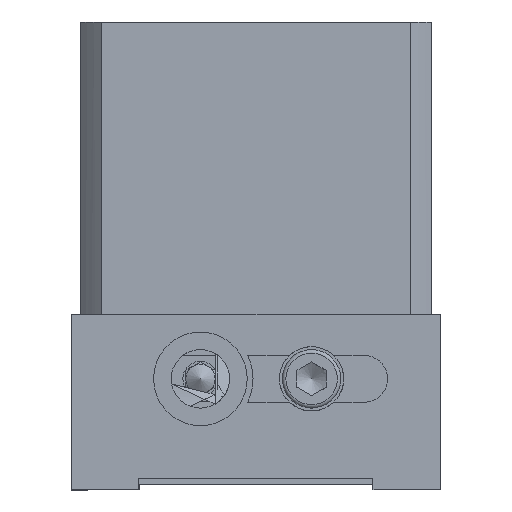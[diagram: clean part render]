
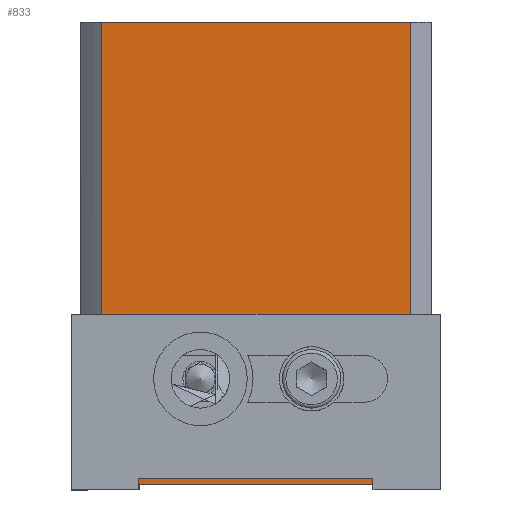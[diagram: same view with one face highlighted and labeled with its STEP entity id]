
A CAD part, left-side view. The second image highlights one B-rep face of the part: STEP entity #833.
In plain terms, the highlighted planar face has unit normal (-1, 0, 0).
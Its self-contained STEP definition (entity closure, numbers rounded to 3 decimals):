
#756=CARTESIAN_POINT('',(-30.,56.458,0.0));
#757=DIRECTION('',(-1.0,0.0,0.0));
#758=DIRECTION('',(0.0,0.0,1.0));
#759=AXIS2_PLACEMENT_3D('',#756,#757,#758);
#760=PLANE('',#759);
#761=CARTESIAN_POINT('',(-30.,3.542,0.0));
#762=VERTEX_POINT('',#761);
#763=CARTESIAN_POINT('',(-30.,3.542,-76.542));
#764=VERTEX_POINT('',#763);
#765=CARTESIAN_POINT('',(-30.,3.542,0.0));
#766=DIRECTION('',(0.0,0.0,-1.0));
#767=VECTOR('',#766,76.542);
#768=LINE('',#765,#767);
#769=EDGE_CURVE('',#762,#764,#768,.T.);
#770=ORIENTED_EDGE('',*,*,#769,.F.);
#771=CARTESIAN_POINT('',(-30.,56.458,0.0));
#772=VERTEX_POINT('',#771);
#773=CARTESIAN_POINT('',(-30.0,56.458,0.0));
#774=DIRECTION('',(0.0,-1.0,0.0));
#775=VECTOR('',#774,52.915);
#776=LINE('',#773,#775);
#777=EDGE_CURVE('',#772,#762,#776,.T.);
#778=ORIENTED_EDGE('',*,*,#777,.F.);
#779=CARTESIAN_POINT('',(-30.,56.458,-76.542));
#780=VERTEX_POINT('',#779);
#781=CARTESIAN_POINT('',(-30.,56.458,0.0));
#782=DIRECTION('',(0.0,0.0,-1.0));
#783=VECTOR('',#782,76.542);
#784=LINE('',#781,#783);
#785=EDGE_CURVE('',#772,#780,#784,.T.);
#786=ORIENTED_EDGE('',*,*,#785,.T.);
#787=CARTESIAN_POINT('',(-30.,54.,-79.));
#788=VERTEX_POINT('',#787);
#789=CARTESIAN_POINT('',(-30.,54.,-79.));
#790=DIRECTION('',(0.,0.707,0.707));
#791=VECTOR('',#790,3.475);
#792=LINE('',#789,#791);
#793=EDGE_CURVE('',#788,#780,#792,.T.);
#794=ORIENTED_EDGE('',*,*,#793,.F.);
#795=CARTESIAN_POINT('',(-30.,6.,-79.0));
#796=VERTEX_POINT('',#795);
#797=CARTESIAN_POINT('',(-30.,54.,-79.));
#798=DIRECTION('',(0.0,-1.0,0.0));
#799=VECTOR('',#798,48.0);
#800=LINE('',#797,#799);
#801=EDGE_CURVE('',#788,#796,#800,.T.);
#802=ORIENTED_EDGE('',*,*,#801,.T.);
#803=CARTESIAN_POINT('',(-30.,3.542,-76.542));
#804=DIRECTION('',(0.,0.707,-0.707));
#805=VECTOR('',#804,3.475);
#806=LINE('',#803,#805);
#807=EDGE_CURVE('',#764,#796,#806,.T.);
#808=ORIENTED_EDGE('',*,*,#807,.F.);
#809=EDGE_LOOP('',(#770,#778,#786,#794,#802,#808));
#810=FACE_OUTER_BOUND('',#809,.T.);
#811=CARTESIAN_POINT('',(-30.,47.5,-61.));
#812=VERTEX_POINT('',#811);
#813=CARTESIAN_POINT('',(-30.,39.5,-61.));
#814=DIRECTION('',(-1.0,0.0,0.0));
#815=DIRECTION('',(0.0,1.0,0.0));
#816=AXIS2_PLACEMENT_3D('',#813,#814,#815);
#817=CIRCLE('',#816,8.0);
#818=EDGE_CURVE('',#812,#812,#817,.T.);
#819=ORIENTED_EDGE('',*,*,#818,.F.);
#820=EDGE_LOOP('',(#819));
#821=FACE_BOUND('',#820,.T.);
#822=CARTESIAN_POINT('',(-30.,28.5,-61.));
#823=VERTEX_POINT('',#822);
#824=CARTESIAN_POINT('',(-30.,20.5,-61.));
#825=DIRECTION('',(-1.0,0.0,0.0));
#826=DIRECTION('',(0.0,-1.0,0.0));
#827=AXIS2_PLACEMENT_3D('',#824,#825,#826);
#828=CIRCLE('',#827,8.0);
#829=EDGE_CURVE('',#823,#823,#828,.T.);
#830=ORIENTED_EDGE('',*,*,#829,.F.);
#831=EDGE_LOOP('',(#830));
#832=FACE_BOUND('',#831,.T.);
#833=ADVANCED_FACE('',(#810,#821,#832),#760,.T.);
